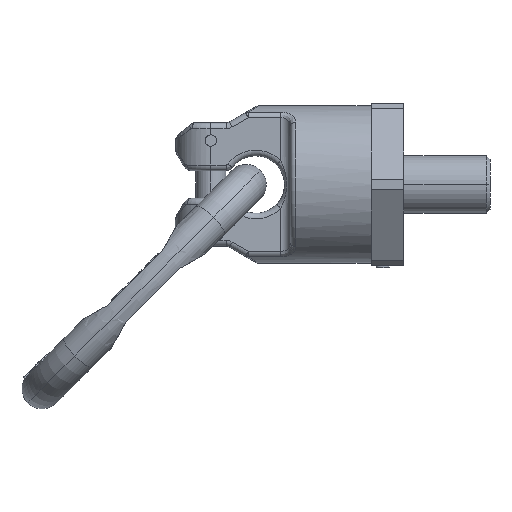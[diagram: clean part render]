
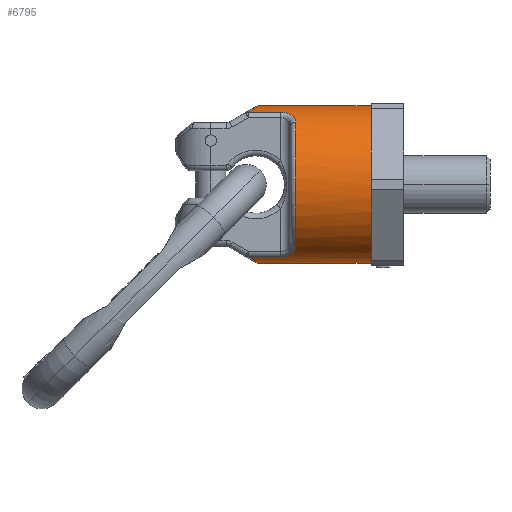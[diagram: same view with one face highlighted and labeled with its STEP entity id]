
A CAD part, front view. The second image highlights one B-rep face of the part: STEP entity #6795.
In plain terms, the highlighted cylindrical face has radius 41.25 mm (diameter 82.5 mm), a partial arc.
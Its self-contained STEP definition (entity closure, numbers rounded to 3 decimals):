
#6=CARTESIAN_POINT('',(105.5,0.,0.));
#7=DIRECTION('',(1.,0.,0.));
#8=DIRECTION('',(0.,0.,1.));
#9=AXIS2_PLACEMENT_3D('',#6,#7,#8);
#81=DIRECTION('',(1.,0.,0.));
#82=VECTOR('',#81,61.696);
#83=CARTESIAN_POINT('',(43.804,0.,
-41.25));
#84=LINE('',#83,#82);
#1639=CARTESIAN_POINT('',(55.,-16.716,37.711));
#1640=CARTESIAN_POINT('',(55.264,-16.716,37.711));
#1641=CARTESIAN_POINT('',(55.776,-16.744,37.699));
#1642=CARTESIAN_POINT('',(56.497,-16.857,37.649));
#1643=CARTESIAN_POINT('',(57.179,-17.031,37.57));
#1644=CARTESIAN_POINT('',(57.827,-17.261,37.465));
#1645=CARTESIAN_POINT('',(58.444,-17.545,37.333));
#1646=CARTESIAN_POINT('',(59.035,-17.882,37.173));
#1647=CARTESIAN_POINT('',(59.587,-18.264,36.987));
#1648=CARTESIAN_POINT('',(60.089,-18.675,36.782));
#1649=CARTESIAN_POINT('',(60.558,-19.125,36.55));
#1650=CARTESIAN_POINT('',(61.009,-19.633,36.28));
#1651=CARTESIAN_POINT('',(61.432,-20.195,35.971));
#1652=CARTESIAN_POINT('',(61.818,-20.809,35.619));
#1653=CARTESIAN_POINT('',(62.152,-21.454,35.234));
#1654=CARTESIAN_POINT('',(62.424,-22.104,34.83));
#1655=CARTESIAN_POINT('',(62.64,-22.756,34.409));
#1656=CARTESIAN_POINT('',(62.804,-23.406,33.969));
#1657=CARTESIAN_POINT('',(62.918,-24.055,33.513));
#1658=CARTESIAN_POINT('',(62.985,-24.701,33.04));
#1659=CARTESIAN_POINT('',(63.,-25.13,32.713));
#1660=CARTESIAN_POINT('',(63.,-25.343,32.547));
#1662=DIRECTION('',(1.,0.,0.));
#1663=VECTOR('',#1662,16.879);
#1664=CARTESIAN_POINT('',(38.121,-16.716,37.711));
#1665=LINE('',#1664,#1663);
#1666=CARTESIAN_POINT('',(43.804,0.,
41.25));
#1667=CARTESIAN_POINT('',(43.804,-0.774,
41.25));
#1668=CARTESIAN_POINT('',(43.733,-2.322,41.206));
#1669=CARTESIAN_POINT('',(43.426,-4.595,41.015));
#1670=CARTESIAN_POINT('',(42.9,-6.931,40.687));
#1671=CARTESIAN_POINT('',(42.123,-9.35,40.203));
#1672=CARTESIAN_POINT('',(41.036,-11.904,39.526));
#1673=CARTESIAN_POINT('',(39.632,-14.485,38.653));
#1674=CARTESIAN_POINT('',(38.637,-15.991,38.033));
#1675=CARTESIAN_POINT('',(38.121,-16.716,37.711));
#1677=DIRECTION('',(1.,0.,0.));
#1678=VECTOR('',#1677,61.696);
#1679=CARTESIAN_POINT('',(43.804,0.,
41.25));
#1680=LINE('',#1679,#1678);
#1681=CARTESIAN_POINT('',(38.121,-16.716,
-37.711));
#1682=CARTESIAN_POINT('',(38.683,-15.926,
-38.061));
#1683=CARTESIAN_POINT('',(39.72,-14.337,
-38.707));
#1684=CARTESIAN_POINT('',(41.038,-11.885,
-39.528));
#1685=CARTESIAN_POINT('',(42.05,-9.529,
-40.158));
#1686=CARTESIAN_POINT('',(42.818,-7.216,
-40.636));
#1687=CARTESIAN_POINT('',(43.366,-4.928,
-40.977));
#1688=CARTESIAN_POINT('',(43.721,-2.509,
-41.198));
#1689=CARTESIAN_POINT('',(43.804,-0.846,
-41.25));
#1690=CARTESIAN_POINT('',(43.804,0.,
-41.25));
#1692=DIRECTION('',(-1.,0.,0.));
#1693=VECTOR('',#1692,16.879);
#1694=CARTESIAN_POINT('',(55.,-16.716,
-37.711));
#1695=LINE('',#1694,#1693);
#1696=CARTESIAN_POINT('',(63.,-25.343,-32.547));
#1697=CARTESIAN_POINT('',(63.,-25.131,
-32.712));
#1698=CARTESIAN_POINT('',(62.985,-24.704,
-33.038));
#1699=CARTESIAN_POINT('',(62.919,-24.059,
-33.511));
#1700=CARTESIAN_POINT('',(62.805,-23.41,
-33.967));
#1701=CARTESIAN_POINT('',(62.642,-22.761,
-34.405));
#1702=CARTESIAN_POINT('',(62.427,-22.111,
-34.826));
#1703=CARTESIAN_POINT('',(62.156,-21.463,
-35.229));
#1704=CARTESIAN_POINT('',(61.825,-20.821,
-35.612));
#1705=CARTESIAN_POINT('',(61.44,-20.207,
-35.964));
#1706=CARTESIAN_POINT('',(61.014,-19.639,
-36.277));
#1707=CARTESIAN_POINT('',(60.557,-19.124,
-36.551));
#1708=CARTESIAN_POINT('',(60.081,-18.668,
-36.785));
#1709=CARTESIAN_POINT('',(59.576,-18.255,
-36.992));
#1710=CARTESIAN_POINT('',(59.023,-17.875,
-37.177));
#1711=CARTESIAN_POINT('',(58.436,-17.541,
-37.335));
#1712=CARTESIAN_POINT('',(57.82,-17.259,
-37.466));
#1713=CARTESIAN_POINT('',(57.174,-17.029,
-37.571));
#1714=CARTESIAN_POINT('',(56.493,-16.856,
-37.649));
#1715=CARTESIAN_POINT('',(55.773,-16.744,
-37.699));
#1716=CARTESIAN_POINT('',(55.263,-16.716,
-37.711));
#1717=CARTESIAN_POINT('',(55.,-16.716,
-37.711));
#1719=CARTESIAN_POINT('',(63.,0.,0.));
#1720=DIRECTION('',(1.,0.,0.));
#1721=DIRECTION('',(0.,-0.614,0.789));
#1722=AXIS2_PLACEMENT_3D('',#1719,#1720,#1721);
#4271=CARTESIAN_POINT('',(105.5,0.,-41.25));
#4272=CARTESIAN_POINT('',(105.5,0.,41.25));
#4273=VERTEX_POINT('',#4271);
#4274=VERTEX_POINT('',#4272);
#4275=CARTESIAN_POINT('',(43.804,0.,
-41.25));
#4276=VERTEX_POINT('',#4275);
#4277=CARTESIAN_POINT('',(43.804,0.,
41.25));
#4278=VERTEX_POINT('',#4277);
#4285=VERTEX_POINT('',#1639);
#4286=VERTEX_POINT('',#1660);
#4287=CARTESIAN_POINT('',(38.121,-16.716,37.711));
#4288=VERTEX_POINT('',#4287);
#4311=VERTEX_POINT('',#1696);
#4312=VERTEX_POINT('',#1717);
#4317=CARTESIAN_POINT('',(38.121,-16.716,
-37.711));
#4318=VERTEX_POINT('',#4317);
#6772=CARTESIAN_POINT('',(0.,0.,0.));
#6773=DIRECTION('',(1.,0.,0.));
#6774=DIRECTION('',(0.,0.,-1.));
#6775=AXIS2_PLACEMENT_3D('',#6772,#6773,#6774);
#6776=CYLINDRICAL_SURFACE('',#6775,41.25);
#6778=ORIENTED_EDGE('',*,*,#6777,.F.);
#6780=ORIENTED_EDGE('',*,*,#6779,.F.);
#6781=ORIENTED_EDGE('',*,*,#6646,.F.);
#6782=ORIENTED_EDGE('',*,*,#5087,.T.);
#6783=ORIENTED_EDGE('',*,*,#5062,.T.);
#6784=ORIENTED_EDGE('',*,*,#5084,.F.);
#6786=ORIENTED_EDGE('',*,*,#6785,.F.);
#6788=ORIENTED_EDGE('',*,*,#6787,.F.);
#6790=ORIENTED_EDGE('',*,*,#6789,.F.);
#6792=ORIENTED_EDGE('',*,*,#6791,.F.);
#6793=EDGE_LOOP('',(#6778,#6780,#6781,#6782,#6783,#6784,#6786,#6788,#6790,
#6792));
#6794=FACE_OUTER_BOUND('',#6793,.F.);
#6795=ADVANCED_FACE('',(#6794),#6776,.T.);
#10=CIRCLE('',#9,41.25);
#1661=B_SPLINE_CURVE_WITH_KNOTS('',3,(#1639,#1640,#1641,#1642,#1643,#1644,#1645,
#1646,#1647,#1648,#1649,#1650,#1651,#1652,#1653,#1654,#1655,#1656,#1657,#1658,
#1659,#1660),.UNSPECIFIED.,.F.,.F.,(4,1,1,1,1,1,1,1,1,1,1,1,1,1,1,1,1,1,1,4),(
0.,0.053,0.105,0.158,0.211,
0.263,0.316,0.368,0.421,
0.474,0.526,0.579,0.632,
0.684,0.737,0.789,0.842,
0.895,0.947,1.),.UNSPECIFIED.);
#1676=B_SPLINE_CURVE_WITH_KNOTS('',3,(#1666,#1667,#1668,#1669,#1670,#1671,#1672,
#1673,#1674,#1675),.UNSPECIFIED.,.F.,.F.,(4,1,1,1,1,1,1,4),(0.,
0.143,0.286,0.429,0.571,
0.714,0.857,1.),.UNSPECIFIED.);
#1691=B_SPLINE_CURVE_WITH_KNOTS('',3,(#1681,#1682,#1683,#1684,#1685,#1686,#1687,
#1688,#1689,#1690),.UNSPECIFIED.,.F.,.F.,(4,1,1,1,1,1,1,4),(0.,
0.143,0.286,0.429,0.571,
0.714,0.857,1.),.UNSPECIFIED.);
#1718=B_SPLINE_CURVE_WITH_KNOTS('',3,(#1696,#1697,#1698,#1699,#1700,#1701,#1702,
#1703,#1704,#1705,#1706,#1707,#1708,#1709,#1710,#1711,#1712,#1713,#1714,#1715,
#1716,#1717),.UNSPECIFIED.,.F.,.F.,(4,1,1,1,1,1,1,1,1,1,1,1,1,1,1,1,1,1,1,4),(
0.,0.053,0.105,0.158,0.211,
0.263,0.316,0.368,0.421,
0.474,0.526,0.579,0.632,
0.684,0.737,0.789,0.842,
0.895,0.947,1.),.UNSPECIFIED.);
#1723=CIRCLE('',#1722,41.25);
#5062=EDGE_CURVE('',#4274,#4273,#10,.T.);
#5084=EDGE_CURVE('',#4276,#4273,#84,.T.);
#5087=EDGE_CURVE('',#4278,#4274,#1680,.T.);
#6646=EDGE_CURVE('',#4278,#4288,#1676,.T.);
#6777=EDGE_CURVE('',#4285,#4286,#1661,.T.);
#6779=EDGE_CURVE('',#4288,#4285,#1665,.T.);
#6785=EDGE_CURVE('',#4318,#4276,#1691,.T.);
#6787=EDGE_CURVE('',#4312,#4318,#1695,.T.);
#6789=EDGE_CURVE('',#4311,#4312,#1718,.T.);
#6791=EDGE_CURVE('',#4286,#4311,#1723,.T.);
